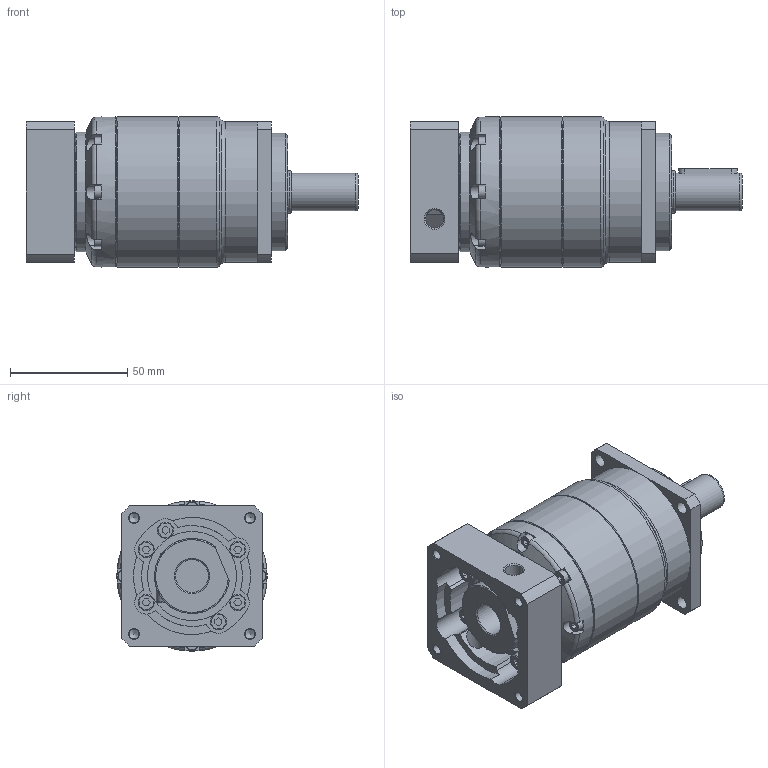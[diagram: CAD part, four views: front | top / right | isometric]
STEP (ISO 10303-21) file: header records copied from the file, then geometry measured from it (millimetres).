
FILE_DESCRIPTION(/* description */ (''),/* implementation_level */ '2;1');
FILE_NAME(/* name */ 'WB060-L2-50-70-M5-14-31.5.stp',/* time_stamp */ '2025-06-24T22:20:29+08:00',/* author */ (''),/* organization */ (''),/* preprocessor_version */ 'ST-DEVELOPER v16.7',/* originating_system */ 'SIEMENS PLM Software NX 12.0',/* authorisation */ '');
FILE_SCHEMA (('AUTOMOTIVE_DESIGN { 1 0 10303 214 3 1 1 1 }'));
Length unit declared in the file: millimetre
Products named in the file (1): WXHQ46542D94csvk
Bounding box: 141.5 x 64 x 64 mm (x, y, z)
Volume: 319418.1 mm3; surface area: 61504.3 mm2
Topology: 5 solids, 6 shells, 336 faces, 815 edges, 529 vertices
Faces by surface type: plane 200, cylinder 82, torus 30, cone 24
Full cylindrical faces by diameter (mm): 4.134 x1, 4.2 x4, 4.8 x2, 5.3 x2, 5.5 x12, 7 x6, 7.8 x2, 8 x1, 8.5 x1, 14 x1, 16 x1, 18 x1, 20 x1, 21 x1, 38 x1, 40 x1, 42 x1, 50 x1, 51 x1, 60 x1, 64 x3
Entity records: 11824 total; most frequent: CARTESIAN_POINT 2225, DIRECTION 1553, ORIENTED_EDGE 1398, EDGE_CURVE 699, AXIS2_PLACEMENT_3D 568, VERTEX_POINT 507, EDGE_LOOP 481, LINE 417
